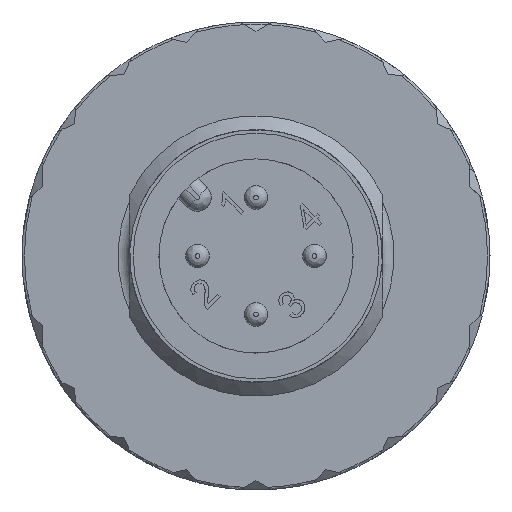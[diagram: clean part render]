
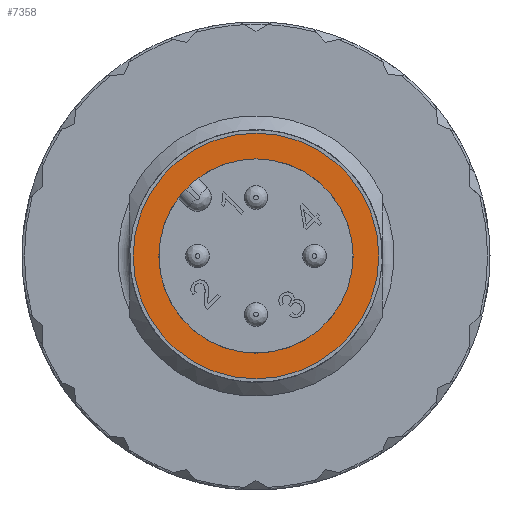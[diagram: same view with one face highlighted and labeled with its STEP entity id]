
A CAD part, front view. The second image highlights one B-rep face of the part: STEP entity #7358.
In plain terms, the highlighted planar face has unit normal (0, -1, 0).
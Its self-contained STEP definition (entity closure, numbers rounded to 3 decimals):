
#315=PLANE('',#8014);
#1879=FACE_BOUND('',#2580,.T.);
#2157=FACE_OUTER_BOUND('',#2579,.T.);
#2579=EDGE_LOOP('',(#6286));
#2580=EDGE_LOOP('',(#6287));
#2978=CIRCLE('',#8015,5.25);
#2979=CIRCLE('',#8016,4.15);
#3609=VERTEX_POINT('',#12495);
#3610=VERTEX_POINT('',#12497);
#4543=EDGE_CURVE('',#3609,#3609,#2978,.T.);
#4544=EDGE_CURVE('',#3610,#3610,#2979,.T.);
#6286=ORIENTED_EDGE('',*,*,#4543,.F.);
#6287=ORIENTED_EDGE('',*,*,#4544,.T.);
#7358=ADVANCED_FACE('',(#2157,#1879),#315,.T.);
#8014=AXIS2_PLACEMENT_3D('',#12494,#9479,#9480);
#8015=AXIS2_PLACEMENT_3D('',#12496,#9481,#9482);
#8016=AXIS2_PLACEMENT_3D('',#12498,#9483,#9484);
#9479=DIRECTION('center_axis',(0.,-1.,0.));
#9480=DIRECTION('ref_axis',(0.,0.,-1.));
#9481=DIRECTION('center_axis',(0.,1.,0.));
#9482=DIRECTION('ref_axis',(0.,0.,1.));
#9483=DIRECTION('center_axis',(0.,1.,0.));
#9484=DIRECTION('ref_axis',(0.,0.,1.));
#12494=CARTESIAN_POINT('Origin',(0.,-19.2,4.7));
#12495=CARTESIAN_POINT('',(0.,-19.2,5.25));
#12496=CARTESIAN_POINT('Origin',(0.,-19.2,0.));
#12497=CARTESIAN_POINT('',(0.,-19.2,4.15));
#12498=CARTESIAN_POINT('Origin',(0.,-19.2,0.));
